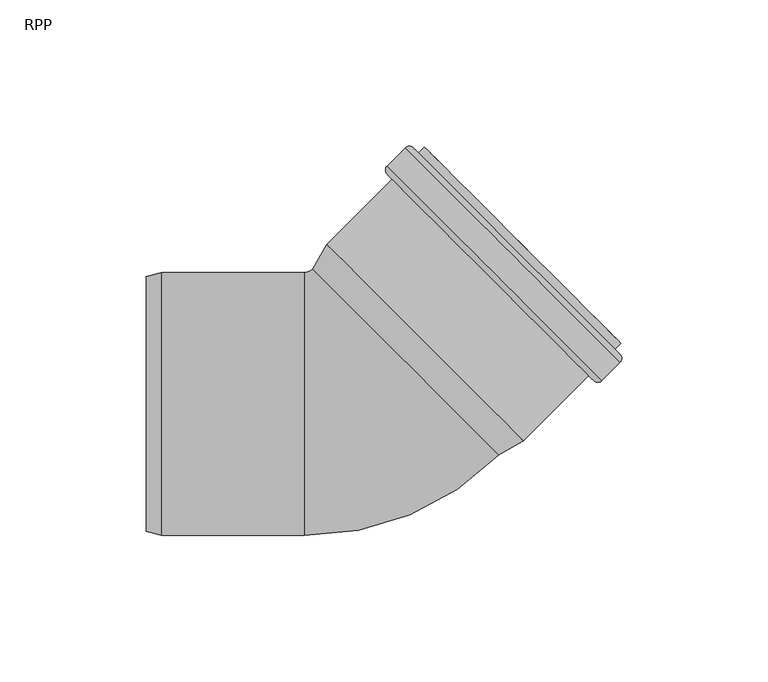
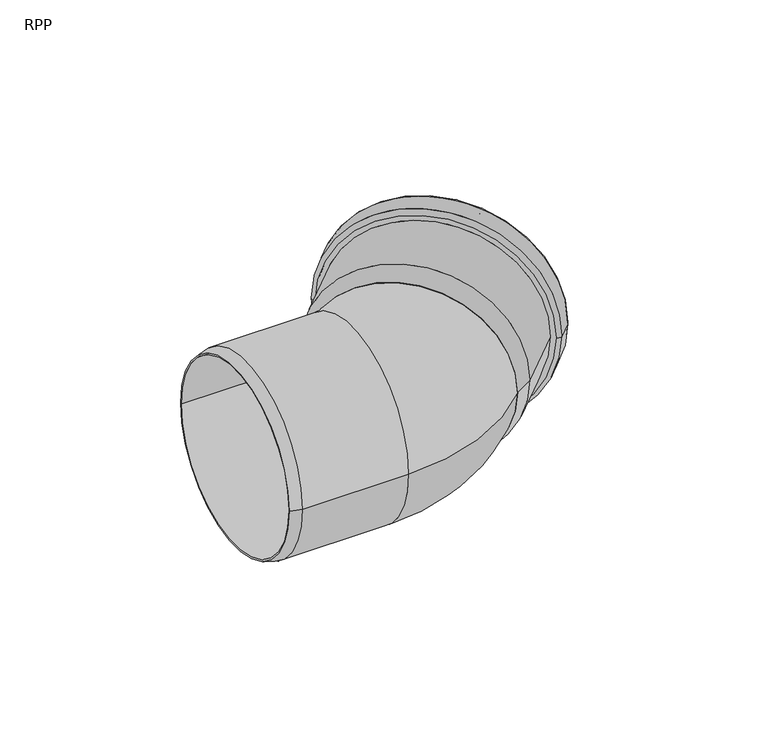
"""IFC4 building model written with IfcOpenShell, lengths in millimetres: pipe fitting geometry, RAUPIANO PLUS Bend : RPP."""

from ifc_helpers import new_model, si_unit, point, frame, origin, place, context, project, spatial, polyline, circle_curve, ellipse_curve, trimmed, source, transform, mapped, element, save
from ifc_brep_helpers import plane_surface, cylinder_surface, revolved_surface, advanced_brep


def rpp_0082672b(model_context):
    return source(origin(), model_context, "Body", "AdvancedBrep", [
        advanced_brep(
        [(44.5610611, -15.8575257, 0.0), (-15.8575257, 44.5610611, 0.0), (-10.8779702, 53.1859042, 0.0), (53.1859042, -10.8779702, 0.0), (54.5367359, -12.6384083, 0.0), (-12.6384083, 54.5367359, 0.0), (-17.4680374, 46.1715729, 0.0), (46.1715729, -17.4680374, 0.0), (76.8600072, 9.684863, 0.0), (9.684863, 76.8600072, 0.0), (87.5373196, 14.1396357, 0.0), (14.1396357, 87.5373196, 0.0), (7.9878067, 81.3854906, 0.0), (81.3854906, 7.9878067, 0.0), (87.890873, 20.7157288, 0.0), (20.7157288, 87.890873, 0.0), (18.6651191, 85.8402633, 0.0), (85.8402633, 18.6651191, 0.0), (82.7289935, 18.6651191, 0.0), (18.6651191, 82.7289935, 0.0), (22.2713637, 86.335238, 0.0), (86.335238, 22.2713637, 0.0), (80.3248304, 10.0384164, 0.0), (10.0384164, 80.3248304, 0.0), (15.2002959, 85.4867099, 0.0), (85.4867099, 15.2002959, 0.0), (12.7961328, 76.8600072, 0.0), (76.8600072, 12.7961328, 0.0), (7.9878067, 78.5570635, 0.0), (78.5570635, 7.9878067, 0.0), (87.5373196, 16.9680628, 0.0), (16.9680628, 87.5373196, 0.0), (15.9074026, 85.4867099, 0.0), (85.4867099, 15.9074026, 0.0), (79.6177236, 10.0384164, 0.0), (10.0384164, 79.6177236, 0.0)],
        [
            (0, 1, circle_curve(frame((14.3517677, 14.3517677, 0.0), z_axis=(-0.7071067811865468, -0.7071067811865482, 0.0), x_axis=(-0.7071067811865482, 0.7071067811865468, 0.0)), 42.7223924)),
            (1, 2),
            (2, 3, circle_curve(frame((21.153967, 21.153967, 0.0), z_axis=(0.7071067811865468, 0.7071067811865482, 0.0), x_axis=(-0.7071067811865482, 0.7071067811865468, 0.0)), 45.3)),
            (3, 0),
            (4, 5, circle_curve(frame((20.9491638, 20.9491638, 0.0), z_axis=(-0.7071067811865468, -0.7071067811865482, 0.0), x_axis=(-0.7071067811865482, 0.7071067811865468, 0.0)), 47.5)),
            (5, 6),
            (6, 7, circle_curve(frame((14.3517677, 14.3517677, 0.0), z_axis=(0.7071067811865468, 0.7071067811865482, 0.0), x_axis=(-0.7071067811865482, 0.7071067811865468, 0.0)), 45.0)),
            (7, 4),
            (8, 9, circle_curve(frame((43.2724351, 43.2724351, 0.0), z_axis=(-0.7071067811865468, -0.7071067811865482, 0.0), x_axis=(-0.7071067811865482, 0.7071067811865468, 0.0)), 47.5)),
            (9, 5),
            (4, 8),
            (10, 11, circle_curve(frame((50.8384776, 50.8384776, 0.0), z_axis=(-0.7071067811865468, -0.7071067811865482, 0.0), x_axis=(-0.7071067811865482, 0.7071067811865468, 0.0)), 51.9)),
            (11, 12),
            (12, 13, circle_curve(frame((44.6866486, 44.6866486, 0.0), z_axis=(0.7071067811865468, 0.7071067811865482, 0.0), x_axis=(-0.7071067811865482, 0.7071067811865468, 0.0)), 51.9)),
            (13, 10),
            (14, 15, circle_curve(frame((54.3033009, 54.3033009, 0.0), z_axis=(-0.7071067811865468, -0.7071067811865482, 0.0), x_axis=(-0.7071067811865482, 0.7071067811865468, 0.0)), 47.5)),
            (15, 16),
            (16, 17, circle_curve(frame((52.2526912, 52.2526912, 0.0), z_axis=(0.7071067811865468, 0.7071067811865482, 0.0), x_axis=(-0.7071067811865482, 0.7071067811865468, 0.0)), 47.5)),
            (17, 14),
            (18, 19, circle_curve(frame((50.6970563, 50.6970563, 0.0), z_axis=(-0.7071067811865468, -0.7071067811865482, 0.0), x_axis=(-0.7071067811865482, 0.7071067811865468, 0.0)), 45.3)),
            (19, 20),
            (20, 21, circle_curve(frame((54.3033009, 54.3033009, 0.0), z_axis=(0.7071067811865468, 0.7071067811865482, 0.0), x_axis=(-0.7071067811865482, 0.7071067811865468, 0.0)), 45.3)),
            (21, 18),
            (22, 23, circle_curve(frame((45.1816234, 45.1816234, 0.0), z_axis=(-0.7071067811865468, -0.7071067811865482, 0.0), x_axis=(-0.7071067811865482, 0.7071067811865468, 0.0)), 49.7)),
            (23, 24),
            (24, 25, circle_curve(frame((50.3435029, 50.3435029, 0.0), z_axis=(0.7071067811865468, 0.7071067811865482, 0.0), x_axis=(-0.7071067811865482, 0.7071067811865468, 0.0)), 49.7)),
            (25, 22),
            (2, 26),
            (26, 27, circle_curve(frame((44.82807, 44.82807, 0.0), z_axis=(0.7071067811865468, 0.7071067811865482, 0.0), x_axis=(-0.7071067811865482, 0.7071067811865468, 0.0)), 45.3)),
            (27, 3),
            (1, 0, circle_curve(frame((14.3517677, 14.3517677, 0.0), z_axis=(-0.7071067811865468, -0.7071067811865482, 0.0), x_axis=(0.7071067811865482, -0.7071067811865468, 0.0)), 42.7223924)),
            (3, 2, circle_curve(frame((21.153967, 21.153967, 0.0), z_axis=(0.7071067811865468, 0.7071067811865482, 0.0), x_axis=(0.7071067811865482, -0.7071067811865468, 0.0)), 45.3)),
            (6, 7, circle_curve(frame((14.3517677, 14.3517677, 0.0), z_axis=(-0.7071067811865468, -0.7071067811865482, 0.0), x_axis=(0.7071067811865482, -0.7071067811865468, 0.0)), 45.0)),
            (5, 4, circle_curve(frame((20.9491638, 20.9491638, 0.0), z_axis=(-0.7071067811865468, -0.7071067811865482, 0.0), x_axis=(0.7071067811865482, -0.7071067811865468, 0.0)), 47.5)),
            (9, 8, circle_curve(frame((43.2724351, 43.2724351, 0.0), z_axis=(-0.7071067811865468, -0.7071067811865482, 0.0), x_axis=(0.7071067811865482, -0.7071067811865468, 0.0)), 47.5)),
            (28, 29, circle_curve(frame((43.2724351, 43.2724351, 0.0), z_axis=(-0.7071067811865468, -0.7071067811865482, 0.0), x_axis=(0.7071067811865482, -0.7071067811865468, 0.0)), 49.9)),
            (29, 28, circle_curve(frame((43.2724351, 43.2724351, 0.0), z_axis=(-0.7071067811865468, -0.7071067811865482, 0.0), x_axis=(-0.7071067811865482, 0.7071067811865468, 0.0)), 49.9)),
            (11, 10, circle_curve(frame((50.8384776, 50.8384776, 0.0), z_axis=(-0.7071067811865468, -0.7071067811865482, 0.0), x_axis=(0.7071067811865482, -0.7071067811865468, 0.0)), 51.9)),
            (13, 12, circle_curve(frame((44.6866486, 44.6866486, 0.0), z_axis=(0.7071067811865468, 0.7071067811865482, 0.0), x_axis=(0.7071067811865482, -0.7071067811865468, 0.0)), 51.9)),
            (30, 31, circle_curve(frame((52.2526912, 52.2526912, 0.0), z_axis=(0.7071067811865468, 0.7071067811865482, 0.0), x_axis=(0.7071067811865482, -0.7071067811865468, 0.0)), 49.9)),
            (31, 30, circle_curve(frame((52.2526912, 52.2526912, 0.0), z_axis=(0.7071067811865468, 0.7071067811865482, 0.0), x_axis=(-0.7071067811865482, 0.7071067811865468, 0.0)), 49.9)),
            (16, 17, circle_curve(frame((52.2526912, 52.2526912, 0.0), z_axis=(-0.7071067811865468, -0.7071067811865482, 0.0), x_axis=(0.7071067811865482, -0.7071067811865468, 0.0)), 47.5)),
            (15, 14, circle_curve(frame((54.3033009, 54.3033009, 0.0), z_axis=(-0.7071067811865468, -0.7071067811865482, 0.0), x_axis=(0.7071067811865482, -0.7071067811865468, 0.0)), 47.5)),
            (20, 21, circle_curve(frame((54.3033009, 54.3033009, 0.0), z_axis=(-0.7071067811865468, -0.7071067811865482, 0.0), x_axis=(0.7071067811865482, -0.7071067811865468, 0.0)), 45.3)),
            (19, 18, circle_curve(frame((50.6970563, 50.6970563, 0.0), z_axis=(-0.7071067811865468, -0.7071067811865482, 0.0), x_axis=(0.7071067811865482, -0.7071067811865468, 0.0)), 45.3)),
            (32, 33, circle_curve(frame((50.6970563, 50.6970563, 0.0), z_axis=(-0.7071067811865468, -0.7071067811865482, 0.0), x_axis=(0.7071067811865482, -0.7071067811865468, 0.0)), 49.2)),
            (33, 32, circle_curve(frame((50.6970563, 50.6970563, 0.0), z_axis=(-0.7071067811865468, -0.7071067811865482, 0.0), x_axis=(-0.7071067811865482, 0.7071067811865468, 0.0)), 49.2)),
            (23, 22, circle_curve(frame((45.1816234, 45.1816234, 0.0), z_axis=(-0.7071067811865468, -0.7071067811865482, 0.0), x_axis=(0.7071067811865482, -0.7071067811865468, 0.0)), 49.7)),
            (25, 24, circle_curve(frame((50.3435029, 50.3435029, 0.0), z_axis=(0.7071067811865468, 0.7071067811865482, 0.0), x_axis=(0.7071067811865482, -0.7071067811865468, 0.0)), 49.7)),
            (34, 35, circle_curve(frame((44.82807, 44.82807, 0.0), z_axis=(0.7071067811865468, 0.7071067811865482, 0.0), x_axis=(0.7071067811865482, -0.7071067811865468, 0.0)), 49.2)),
            (35, 34, circle_curve(frame((44.82807, 44.82807, 0.0), z_axis=(0.7071067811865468, 0.7071067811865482, 0.0), x_axis=(-0.7071067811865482, 0.7071067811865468, 0.0)), 49.2)),
            (26, 27, circle_curve(frame((44.82807, 44.82807, 0.0), z_axis=(-0.7071067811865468, -0.7071067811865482, 0.0), x_axis=(0.7071067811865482, -0.7071067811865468, 0.0)), 45.3)),
            (12, 28, circle_curve(frame((9.4020203, 79.971277, 0.0), z_axis=(0.0, 0.0, 1.0), x_axis=(0.7071067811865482, -0.7071067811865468, 0.0)), 2.0)),
            (29, 13, circle_curve(frame((79.971277, 9.4020203, 0.0), z_axis=(0.0, 0.0, 1.0), x_axis=(-0.7071067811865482, 0.7071067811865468, 0.0)), 2.0)),
            (31, 11, circle_curve(frame((15.5538492, 86.123106, 0.0), z_axis=(0.0, 0.0, 1.0), x_axis=(0.7071067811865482, -0.7071067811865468, 0.0)), 2.0)),
            (10, 30, circle_curve(frame((86.123106, 15.5538492, 0.0), z_axis=(0.0, 0.0, 1.0), x_axis=(-0.7071067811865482, 0.7071067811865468, 0.0)), 2.0)),
            (24, 32, circle_curve(frame((15.5538492, 85.1331565, 0.0), z_axis=(0.0, 0.0, -1.0), x_axis=(0.7071067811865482, -0.7071067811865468, 0.0)), 0.5)),
            (33, 25, circle_curve(frame((85.1331565, 15.5538492, 0.0), z_axis=(0.0, 0.0, -1.0), x_axis=(-0.7071067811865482, 0.7071067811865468, 0.0)), 0.5)),
            (35, 23, circle_curve(frame((10.3919697, 79.971277, 0.0), z_axis=(0.0, 0.0, -1.0), x_axis=(0.7071067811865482, -0.7071067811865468, 0.0)), 0.5)),
            (22, 34, circle_curve(frame((79.971277, 10.3919697, 0.0), z_axis=(0.0, 0.0, -1.0), x_axis=(-0.7071067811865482, 0.7071067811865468, 0.0)), 0.5)),
        ],
        [
            revolved_surface(polyline([(-10.8779702, 53.1859042, 0.0), (-15.8575257, 44.5610611, 0.0)]), (14.3517677, 14.3517677, 0.0), (0.7071067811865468, 0.7071067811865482, 0.0)),
            revolved_surface(polyline([(-17.4680374, 46.1715729, 0.0), (-12.6384083, 54.5367359, 0.0)]), (14.3517677, 14.3517677, 0.0), (0.7071067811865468, 0.7071067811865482, 0.0)),
            cylinder_surface(frame((14.3517677, 14.3517677, 0.0), z_axis=(0.7071067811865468, 0.7071067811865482, 0.0), x_axis=(-0.7071067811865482, 0.7071067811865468, 0.0)), 47.5),
            cylinder_surface(frame((14.3517677, 14.3517677, 0.0), z_axis=(0.7071067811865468, 0.7071067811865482, 0.0), x_axis=(-0.7071067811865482, 0.7071067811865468, 0.0)), 51.9),
            revolved_surface(polyline([(22.27136371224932, 86.33523808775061, 0.0), (18.665119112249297, 82.72899348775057, 0.0)]), (14.3517677, 14.3517677, 0.0), (0.7071067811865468, 0.7071067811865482, 0.0)),
            revolved_surface(polyline([(15.20029587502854, 85.48670992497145, 0.0), (10.03841637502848, 80.32483042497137, 0.0)]), (14.3517677, 14.3517677, 0.0), (0.7071067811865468, 0.7071067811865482, 0.0)),
            revolved_surface(polyline([(12.796132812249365, 76.86000718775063, 0.0), (-10.877970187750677, 53.18590418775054, 0.0)]), (14.3517677, 14.3517677, 0.0), (0.7071067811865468, 0.7071067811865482, 0.0)),
            revolved_surface(polyline([(53.1859042, -10.8779702, 0.0), (44.5610611, -15.8575257, 0.0)]), (14.3517677, 14.3517677, 0.0), (0.7071067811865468, 0.7071067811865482, 0.0)),
            plane_surface(frame((14.3517677, 14.3517677, 0.0), z_axis=(-0.7071067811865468, -0.7071067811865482, 0.0), x_axis=(0.7071067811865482, -0.7071067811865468, 0.0))),
            revolved_surface(polyline([(46.1715729, -17.4680374, 0.0), (54.5367359, -12.6384083, 0.0)]), (14.3517677, 14.3517677, 0.0), (0.7071067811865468, 0.7071067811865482, 0.0)),
            cylinder_surface(frame((14.3517677, 14.3517677, 0.0), z_axis=(0.7071067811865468, 0.7071067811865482, 0.0), x_axis=(0.7071067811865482, -0.7071067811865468, 0.0)), 47.5),
            plane_surface(frame((43.2724351, 43.2724351, 0.0), z_axis=(-0.7071067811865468, -0.7071067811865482, 0.0), x_axis=(0.7071067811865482, -0.7071067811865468, 0.0))),
            cylinder_surface(frame((14.3517677, 14.3517677, 0.0), z_axis=(0.7071067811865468, 0.7071067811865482, 0.0), x_axis=(0.7071067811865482, -0.7071067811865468, 0.0)), 51.9),
            plane_surface(frame((52.2526912, 52.2526912, 0.0), z_axis=(0.7071067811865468, 0.7071067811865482, 0.0), x_axis=(0.7071067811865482, -0.7071067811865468, 0.0))),
            plane_surface(frame((54.3033009, 54.3033009, 0.0), z_axis=(0.7071067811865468, 0.7071067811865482, 0.0), x_axis=(0.7071067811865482, -0.7071067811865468, 0.0))),
            revolved_surface(polyline([(86.3352380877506, 22.271363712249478, 0.0), (82.72899348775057, 18.66511911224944, 0.0)]), (14.3517677, 14.3517677, 0.0), (0.7071067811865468, 0.7071067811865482, 0.0)),
            plane_surface(frame((50.6970563, 50.6970563, 0.0), z_axis=(-0.7071067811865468, -0.7071067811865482, 0.0), x_axis=(0.7071067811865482, -0.7071067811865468, 0.0))),
            revolved_surface(polyline([(85.48670992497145, 15.200295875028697, 0.0), (80.3248304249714, 10.038416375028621, 0.0)]), (14.3517677, 14.3517677, 0.0), (0.7071067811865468, 0.7071067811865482, 0.0)),
            plane_surface(frame((44.82807, 44.82807, 0.0), z_axis=(0.7071067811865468, 0.7071067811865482, 0.0), x_axis=(0.7071067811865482, -0.7071067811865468, 0.0))),
            revolved_surface(polyline([(76.86000718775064, 12.7961328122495, 0.0), (53.185904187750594, -10.877970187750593, 0.0)]), (14.3517677, 14.3517677, 0.0), (0.7071067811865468, 0.7071067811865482, 0.0)),
            revolved_surface(trimmed(ellipse_curve(frame((9.4020203, 79.971277, 0.0), z_axis=(0.0, 0.0, -1.0), x_axis=(0.7071067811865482, -0.7071067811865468, 0.0)), 2.0, 2.0), [point((7.9878067, 78.5570635, 0.0))], [point((7.9878067, 81.3854906, 0.0))], True, "CARTESIAN"), (14.3517677, 14.3517677, 0.0), (0.7071067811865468, 0.7071067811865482, 0.0)),
            revolved_surface(trimmed(ellipse_curve(frame((15.5538492, 86.123106, 0.0), z_axis=(0.0, 0.0, -1.0), x_axis=(0.7071067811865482, -0.7071067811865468, 0.0)), 2.0, 2.0), [point((14.1396357, 87.5373196, 0.0))], [point((16.9680628, 87.5373196, 0.0))], True, "CARTESIAN"), (14.3517677, 14.3517677, 0.0), (0.7071067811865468, 0.7071067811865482, 0.0)),
            revolved_surface(trimmed(ellipse_curve(frame((15.5538492, 85.1331565, 0.0), z_axis=(0.0, 0.0, 1.0), x_axis=(0.7071067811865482, -0.7071067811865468, 0.0)), 0.5, 0.5), [point((15.9074026, 85.4867099, 0.0))], [point((15.2002959, 85.4867099, 0.0))], True, "CARTESIAN"), (14.3517677, 14.3517677, 0.0), (0.7071067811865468, 0.7071067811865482, 0.0)),
            revolved_surface(trimmed(ellipse_curve(frame((10.3919697, 79.971277, 0.0), z_axis=(0.0, 0.0, 1.0), x_axis=(0.7071067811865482, -0.7071067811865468, 0.0)), 0.5, 0.5), [point((10.0384164, 80.3248304, 0.0))], [point((10.0384164, 79.6177236, 0.0))], True, "CARTESIAN"), (14.3517677, 14.3517677, 0.0), (0.7071067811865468, 0.7071067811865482, 0.0)),
            revolved_surface(trimmed(ellipse_curve(frame((79.971277, 9.4020203, 0.0), z_axis=(0.0, 0.0, 1.0), x_axis=(-0.7071067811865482, 0.7071067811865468, 0.0)), 2.0, 2.0), [point((78.5570635, 7.9878067, 0.0))], [point((81.3854906, 7.9878067, 0.0))], True, "CARTESIAN"), (14.3517677, 14.3517677, 0.0), (0.7071067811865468, 0.7071067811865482, 0.0)),
            revolved_surface(trimmed(ellipse_curve(frame((86.123106, 15.5538492, 0.0), z_axis=(0.0, 0.0, 1.0), x_axis=(-0.7071067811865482, 0.7071067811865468, 0.0)), 2.0, 2.0), [point((87.5373196, 14.1396357, 0.0))], [point((87.5373196, 16.9680628, 0.0))], True, "CARTESIAN"), (14.3517677, 14.3517677, 0.0), (0.7071067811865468, 0.7071067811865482, 0.0)),
            revolved_surface(trimmed(ellipse_curve(frame((85.1331565, 15.5538492, 0.0), z_axis=(0.0, 0.0, -1.0), x_axis=(-0.7071067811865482, 0.7071067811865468, 0.0)), 0.5, 0.5), [point((85.4867099, 15.9074026, 0.0))], [point((85.4867099, 15.2002959, 0.0))], True, "CARTESIAN"), (14.3517677, 14.3517677, 0.0), (0.7071067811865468, 0.7071067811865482, 0.0)),
            revolved_surface(trimmed(ellipse_curve(frame((79.971277, 10.3919697, 0.0), z_axis=(0.0, 0.0, -1.0), x_axis=(-0.7071067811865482, 0.7071067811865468, 0.0)), 0.5, 0.5), [point((80.3248304, 10.0384164, 0.0))], [point((79.6177236, 10.0384164, 0.0))], True, "CARTESIAN"), (14.3517677, 14.3517677, 0.0), (0.7071067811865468, 0.7071067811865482, 0.0)),
        ],
        [
            (0, [[1, 2, 3, 4]]),
            (1, [[5, 6, 7, 8]]),
            (2, [[9, 10, -5, 11]]),
            (3, [[12, 13, 14, 15]]),
            (2, [[16, 17, 18, 19]]),
            (4, [[20, 21, 22, 23]]),
            (5, [[24, 25, 26, 27]]),
            (6, [[-3, 28, 29, 30]]),
            (7, [[31, -4, 32, -2]]),
            (8, [[33, -7], [-31, -1]]),
            (9, [[34, -8, -33, -6]]),
            (10, [[35, -11, -34, -10]]),
            (11, [[36, 37], [-35, -9]]),
            (12, [[38, -15, 39, -13]]),
            (13, [[40, 41], [42, -18]]),
            (10, [[43, -19, -42, -17]]),
            (14, [[-43, -16], [44, -22]]),
            (15, [[45, -23, -44, -21]]),
            (16, [[46, 47], [-45, -20]]),
            (17, [[48, -27, 49, -25]]),
            (18, [[50, 51], [52, -29]]),
            (19, [[-32, -30, -52, -28]]),
            (20, [[-14, 53, -37, 54]]),
            (21, [[-41, 55, -12, 56]]),
            (22, [[-26, 57, -47, 58]]),
            (23, [[-51, 59, -24, 60]]),
            (24, [[-39, -54, -36, -53]]),
            (25, [[-40, -56, -38, -55]]),
            (26, [[-49, -58, -46, -57]]),
            (27, [[-50, -60, -48, -59]]),
        ],
    ),
        advanced_brep(
        [(-20.2964646, 42.8, 0.0), (-20.2964646, -42.8, 0.0), (-74.2964646, -42.8, 0.0), (-74.2964646, 42.8, 0.0), (-69.0715934, 45.0, 0.0), (-69.0715934, -45.0, 0.0), (-20.2964646, -45.0, 0.0), (-20.2964646, 45.0, 0.0), (-74.2964646, 43.6, 0.0), (-74.2964646, -43.6, 0.0)],
        [
            (0, 1, circle_curve(frame((-20.2964646, 0.0, 0.0), z_axis=(1.0, 0.0, 0.0), x_axis=(0.0, -1.0, 0.0)), 42.8)),
            (1, 2),
            (2, 3, circle_curve(frame((-74.2964646, 0.0, 0.0), z_axis=(-1.0, 0.0, 0.0), x_axis=(0.0, -1.0, 0.0)), 42.8)),
            (3, 0),
            (4, 5, circle_curve(frame((-69.0715934, 0.0, 0.0), z_axis=(1.0, 0.0, 0.0), x_axis=(0.0, -1.0, 0.0)), 45.0)),
            (5, 6),
            (6, 7, circle_curve(frame((-20.2964646, 0.0, 0.0), z_axis=(-1.0, 0.0, 0.0), x_axis=(0.0, -1.0, 0.0)), 45.0)),
            (7, 4),
            (8, 9, circle_curve(frame((-74.2964646, 0.0, 0.0), z_axis=(1.0, 0.0, 0.0), x_axis=(0.0, -1.0, 0.0)), 43.6)),
            (9, 5),
            (4, 8),
            (1, 0, circle_curve(frame((-20.2964646, 0.0, 0.0), z_axis=(1.0, 0.0, 0.0), x_axis=(0.0, 1.0, 0.0)), 42.8)),
            (3, 2, circle_curve(frame((-74.2964646, 0.0, 0.0), z_axis=(-1.0, 0.0, 0.0), x_axis=(0.0, 1.0, 0.0)), 42.8)),
            (6, 7, circle_curve(frame((-20.2964646, 0.0, 0.0), z_axis=(1.0, 0.0, 0.0), x_axis=(0.0, 1.0, 0.0)), 45.0)),
            (5, 4, circle_curve(frame((-69.0715934, 0.0, 0.0), z_axis=(1.0, 0.0, 0.0), x_axis=(0.0, 1.0, 0.0)), 45.0)),
            (9, 8, circle_curve(frame((-74.2964646, 0.0, 0.0), z_axis=(1.0, 0.0, 0.0), x_axis=(0.0, 1.0, 0.0)), 43.6)),
        ],
        [
            revolved_surface(polyline([(-74.2964646, -42.8, 0.0), (-20.2964646, -42.8, 0.0)]), (-20.2964646, 0.0, 0.0), (-1.0, 0.0, 0.0)),
            cylinder_surface(frame((-20.2964646, 0.0, 0.0), z_axis=(-1.0, 0.0, 0.0), x_axis=(0.0, -1.0, 0.0)), 45.0),
            revolved_surface(polyline([(-69.0715934, -45.0, 0.0), (-74.2964646, -43.6, 0.0)]), (-20.2964646, 0.0, 0.0), (-1.0, 0.0, 0.0)),
            revolved_surface(polyline([(-74.2964646, 42.8, 0.0), (-20.2964646, 42.8, 0.0)]), (-20.2964646, 0.0, 0.0), (-1.0, 0.0, 0.0)),
            plane_surface(frame((-20.2964646, 0.0, 0.0), z_axis=(1.0, 0.0, 0.0), x_axis=(0.0, 1.0, 0.0))),
            cylinder_surface(frame((-20.2964646, 0.0, 0.0), z_axis=(-1.0, 0.0, 0.0), x_axis=(0.0, 1.0, 0.0)), 45.0),
            revolved_surface(polyline([(-69.0715934, 45.0, 0.0), (-74.2964646, 43.6, 0.0)]), (-20.2964646, 0.0, 0.0), (-1.0, 0.0, 0.0)),
            plane_surface(frame((-74.2964646, 0.0, 0.0), z_axis=(-1.0, 0.0, 0.0), x_axis=(0.0, 1.0, 0.0))),
        ],
        [
            (0, [[1, 2, 3, 4]]),
            (1, [[5, 6, 7, 8]]),
            (2, [[9, 10, -5, 11]]),
            (3, [[12, -4, 13, -2]]),
            (4, [[14, -7], [-12, -1]]),
            (5, [[15, -8, -14, -6]]),
            (6, [[16, -11, -15, -10]]),
            (7, [[-16, -9], [-13, -3]]),
        ],
    ),
        advanced_brep(
        [(-20.2964646, -45.0, 0.0), (-20.2964646, 45.0, 0.0), (-20.2964646, -42.8, 0.0), (-20.2964646, 42.8, 0.0), (46.1715729, -17.4680374, 0.0), (-17.4680374, 46.1715729, 0.0), (44.615938, -15.9124025, 0.0), (-15.9124025, 44.615938, 0.0)],
        [
            (0, 1, circle_curve(frame((-20.2964646, 0.0, 0.0), z_axis=(-1.0, 0.0, 0.0), x_axis=(0.0, 1.0, 0.0)), 45.0)),
            (1, 0, circle_curve(frame((-20.2964646, 0.0, 0.0), z_axis=(-1.0, 0.0, 0.0), x_axis=(0.0, 1.0, 0.0)), 45.0)),
            (2, 3, circle_curve(frame((-20.2964646, 0.0, 0.0), z_axis=(1.0, 0.0, 0.0), x_axis=(0.0, 1.0, 0.0)), 42.8)),
            (3, 2, circle_curve(frame((-20.2964646, 0.0, 0.0), z_axis=(1.0, 0.0, 0.0), x_axis=(0.0, 1.0, 0.0)), 42.8)),
            (4, 5, circle_curve(frame((14.3517677, 14.3517677, 0.0), z_axis=(0.7071067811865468, 0.7071067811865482, 0.0), x_axis=(-0.7071067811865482, 0.7071067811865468, 0.0)), 45.0)),
            (5, 4, circle_curve(frame((14.3517677, 14.3517677, 0.0), z_axis=(0.7071067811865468, 0.7071067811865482, 0.0), x_axis=(-0.7071067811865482, 0.7071067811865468, 0.0)), 45.0)),
            (6, 7, circle_curve(frame((14.3517677, 14.3517677, 0.0), z_axis=(-0.7071067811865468, -0.7071067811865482, 0.0), x_axis=(-0.7071067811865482, 0.7071067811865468, 0.0)), 42.8)),
            (7, 6, circle_curve(frame((14.3517677, 14.3517677, 0.0), z_axis=(-0.7071067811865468, -0.7071067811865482, 0.0), x_axis=(-0.7071067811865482, 0.7071067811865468, 0.0)), 42.8)),
            (7, 3, circle_curve(frame((-20.2964646, 49.0, 0.0), z_axis=(0.0, 0.0, -1.0), x_axis=(0.0, -1.0, 0.0)), 6.2)),
            (2, 6, circle_curve(frame((-20.2964646, 49.0, 0.0), z_axis=(0.0, 0.0, 1.0), x_axis=(0.0, -1.0, 0.0)), 91.8)),
            (5, 1, circle_curve(frame((-20.2964646, 49.0, 0.0), z_axis=(0.0, 0.0, -1.0), x_axis=(0.0, -1.0, 0.0)), 4.0)),
            (0, 4, circle_curve(frame((-20.2964646, 49.0, 0.0), z_axis=(0.0, 0.0, 1.0), x_axis=(0.0, -1.0, 0.0)), 94.0)),
        ],
        [
            plane_surface(frame((-20.2964646, 0.0, 0.0), z_axis=(-1.0, 0.0, 0.0), x_axis=(0.0, 0.0, 1.0))),
            plane_surface(frame((14.3517677, 14.3517677, 0.0), z_axis=(0.7071067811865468, 0.7071067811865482, 0.0), x_axis=(0.0, 0.0, 1.0))),
            revolved_surface(trimmed(ellipse_curve(frame((-20.2964646, 0.0, 0.0), z_axis=(1.0, 0.0, 0.0), x_axis=(0.0, 1.0, 0.0)), 42.8, 42.8), [point((-20.2964646, -42.8, 0.0))], [point((-20.2964646, 42.8, 0.0))], True, "CARTESIAN"), (-20.2964646, 49.0, 0.0), (0.0, 0.0, 1.0)),
            revolved_surface(trimmed(ellipse_curve(frame((-20.2964646, 0.0, 0.0), z_axis=(1.0, 0.0, 0.0), x_axis=(0.0, 1.0, 0.0)), 42.8, 42.8), [point((-20.2964646, 42.8, 0.0))], [point((-20.2964646, -42.8, 0.0))], True, "CARTESIAN"), (-20.2964646, 49.0, 0.0), (0.0, 0.0, 1.0)),
            revolved_surface(trimmed(ellipse_curve(frame((-20.2964646, 0.0, 0.0), z_axis=(-1.0, 0.0, 0.0), x_axis=(0.0, 1.0, 0.0)), 45.0, 45.0), [point((-20.2964646, -45.0, 0.0))], [point((-20.2964646, 45.0, 0.0))], True, "CARTESIAN"), (-20.2964646, 49.0, 0.0), (0.0, 0.0, 1.0)),
            revolved_surface(trimmed(ellipse_curve(frame((-20.2964646, 0.0, 0.0), z_axis=(-1.0, 0.0, 0.0), x_axis=(0.0, 1.0, 0.0)), 45.0, 45.0), [point((-20.2964646, 45.0, 0.0))], [point((-20.2964646, -45.0, 0.0))], True, "CARTESIAN"), (-20.2964646, 49.0, 0.0), (0.0, 0.0, 1.0)),
        ],
        [
            (0, [[1, 2], [3, 4]]),
            (1, [[5, 6], [7, 8]]),
            (2, [[9, -3, 10, -8]]),
            (3, [[-10, -4, -9, -7]]),
            (4, [[11, -1, 12, -6]]),
            (5, [[-12, -2, -11, -5]]),
        ],
    ),
    ])


if __name__ == "__main__":
    model = new_model("IFC4")
    model_context = context("Model", 3, world=origin())
    ifc_project = project(units=[si_unit("LENGTHUNIT", "METRE", prefix="MILLI")], contexts=[model_context])
    site = spatial("IfcSite", under=ifc_project)
    building = spatial("IfcBuilding", under=site)
    placement = place(None, origin())
    rpp_shape = rpp_0082672b(model_context)
    element("IfcPipeFitting", 1, ObjectType="RAUPIANO PLUS Bend : RPP", at=placement, inside=building, context=model_context, shape_type="MappedRepresentation", body=[
        mapped(rpp_shape, transform((0.0, 0.0, 0.0), x_axis=(1.0, 0.0, 0.0), y_axis=(0.0, 1.0, 0.0), z_axis=(0.0, 0.0, 1.0))),
    ])
    save(model, "model.ifc")
